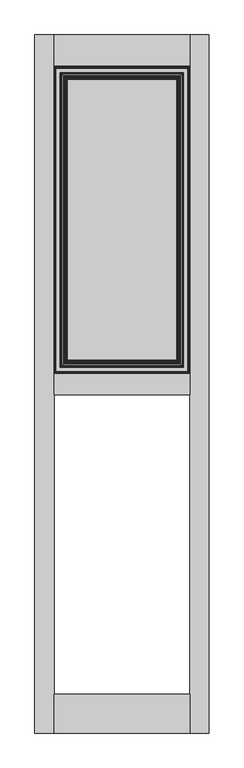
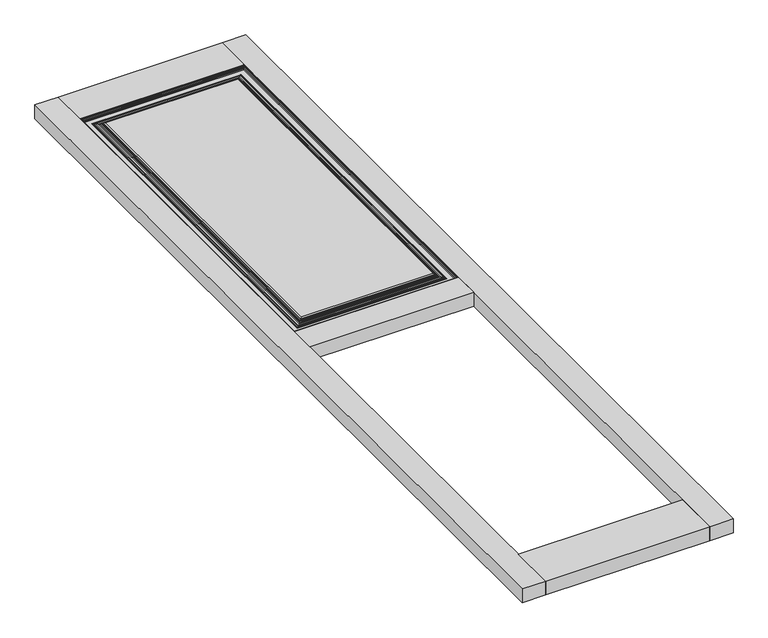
"""IFC4 building model written with IfcOpenShell, lengths in millimetres: proxy geometry, rfa_clas_euro : rfa_clas_euro."""

from ifc_helpers import new_model, si_unit, frame, origin, origin_with_axes, place, context, project, spatial, polyline, ellipse_curve, outline, extrude, source, transform, mapped, element, save
from ifc_brep_helpers import plane_surface, cylinder_surface, revolved_surface, advanced_brep


def generic_models_32b2cebe(model_context):
    return source(origin(), model_context, "Body", "SolidModel", [
        advanced_brep(
        [(142.8109878, 977.9640122, 31.75), (142.8109878, 1711.2609878, 31.75), (-142.8109878, 1711.2609878, 31.75), (-142.8109878, 977.9640122, 31.75), (177.8, 1746.25, 0.0), (177.8, 942.975, 0.0), (-177.8, 942.975, 0.0), (-177.8, 1746.25, 0.0), (-177.8, 1746.25, 31.75), (177.8, 1746.25, 31.75), (-177.8, 942.975, 31.75), (177.8, 942.975, 31.75), (176.7575665, 944.0174335, 30.7985747), (176.7575665, 1745.2075665, 30.7985747), (176.5482746, 1744.9982746, 29.904116), (176.5482746, 944.2267254, 29.904116), (145.3063859, 975.4686141, 30.2273507), (145.3063859, 1713.7563859, 30.2273507), (145.8243029, 974.9506971, 29.1397456), (145.8243029, 1714.2743029, 29.1397456), (147.2536987, 973.5213013, 27.8329042), (147.2536987, 1715.7036987, 27.8329042), (148.2731555, 972.5018445, 27.635423), (148.2731555, 1716.7231555, 27.635423), (149.2714961, 971.5035039, 27.5077118), (149.2714961, 1717.7214961, 27.5077118), (150.560487, 970.214513, 26.8381152), (150.560487, 1719.010487, 26.8381152), (151.3045211, 969.4704789, 26.3695095), (151.3045211, 1719.7545211, 26.3695095), (153.2941856, 967.4808144, 25.9299151), (153.2941856, 1721.7441856, 25.9299151), (156.9684784, 963.8065216, 25.6768193), (156.9684784, 1725.4184784, 25.6768193), (158.5184719, 962.2565281, 25.5163774), (158.5184719, 1726.9684719, 25.5163774), (160.3073754, 960.4676246, 24.5617959), (160.3073754, 1728.7573754, 24.5617959), (161.1169408, 959.6580592, 24.3716442), (161.1169408, 1729.5669408, 24.3716442), (161.8609878, 958.9140122, 24.13), (161.8609878, 1730.3109878, 24.13), (174.7145442, 946.0604558, 24.7979445), (174.7145442, 1743.1645442, 24.7979445), (173.4687859, 1741.9187859, 24.13), (173.4687859, 947.3062141, 24.13), (175.5966631, 945.1783369, 25.7198817), (175.5966631, 1744.0466631, 25.7198817), (176.1049182, 944.6700818, 27.0907273), (176.1049182, 1744.5549182, 27.0907273), (176.4100454, 944.3649546, 28.8502703), (176.4100454, 1744.8600454, 28.8502703), (-176.7575665, 1745.2075665, 30.7985747), (-176.5482746, 1744.9982746, 29.904116), (-145.3063859, 1713.7563859, 30.2273507), (-145.8243029, 1714.2743029, 29.1397456), (-147.2536987, 1715.7036987, 27.8329042), (-148.2731555, 1716.7231555, 27.635423), (-149.2714961, 1717.7214961, 27.5077118), (-150.560487, 1719.010487, 26.8381152), (-151.3045211, 1719.7545211, 26.3695095), (-153.2941856, 1721.7441856, 25.9299151), (-156.9684784, 1725.4184784, 25.6768193), (-158.5184719, 1726.9684719, 25.5163774), (-160.3073754, 1728.7573754, 24.5617959), (-161.1169408, 1729.5669408, 24.3716442), (-161.8609878, 1730.3109878, 24.13), (-174.7145442, 1743.1645442, 24.7979445), (-173.4687859, 1741.9187859, 24.13), (-175.5966631, 1744.0466631, 25.7198817), (-176.1049182, 1744.5549182, 27.0907273), (-176.4100454, 1744.8600454, 28.8502703), (-176.7575665, 944.0174335, 30.7985747), (-176.5482746, 944.2267254, 29.904116), (-145.3063859, 975.4686141, 30.2273507), (-145.8243029, 974.9506971, 29.1397456), (-147.2536987, 973.5213013, 27.8329042), (-148.2731555, 972.5018445, 27.635423), (-149.2714961, 971.5035039, 27.5077118), (-150.560487, 970.214513, 26.8381152), (-151.3045211, 969.4704789, 26.3695095), (-153.2941856, 967.4808144, 25.9299151), (-156.9684784, 963.8065216, 25.6768193), (-158.5184719, 962.2565281, 25.5163774), (-160.3073754, 960.4676246, 24.5617959), (-161.1169408, 959.6580592, 24.3716442), (-161.8609878, 958.9140122, 24.13), (-174.7145442, 946.0604558, 24.7979445), (-173.4687859, 947.3062141, 24.13), (-175.5966631, 945.1783369, 25.7198817), (-176.1049182, 944.6700818, 27.0907273), (-176.4100454, 944.3649546, 28.8502703)],
        [
            (0, 1),
            (1, 2),
            (2, 3),
            (3, 0),
            (4, 5),
            (5, 6),
            (6, 7),
            (7, 4),
            (7, 8),
            (8, 9),
            (9, 4),
            (6, 10),
            (10, 8),
            (5, 11),
            (11, 10),
            (9, 11),
            (12, 13),
            (13, 14, ellipse_curve(frame((180.1411113, 1748.5911113, 29.5351532), z_axis=(0.7071067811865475, -0.7071067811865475, 0.0), x_axis=(0.7071067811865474, 0.7071067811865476, 0.0)), 5.1077606, 3.6117322)),
            (14, 15),
            (15, 12, ellipse_curve(frame((180.1411113, 940.6338887, 29.5351532), z_axis=(0.7071067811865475, 0.7071067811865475, 0.0), x_axis=(-0.7071067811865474, 0.7071067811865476, 0.0)), 5.1077606, 3.6117322)),
            (12, 11, ellipse_curve(frame((178.2069013, 942.5680987, 30.2573906), z_axis=(0.7071067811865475, 0.7071067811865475, 0.0), x_axis=(-0.7071067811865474, 0.7071067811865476, 0.0)), 2.1878993, 1.5470784)),
            (9, 13, ellipse_curve(frame((178.2069013, 1746.6569013, 30.2573906), z_axis=(0.7071067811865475, -0.7071067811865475, 0.0), x_axis=(0.7071067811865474, 0.7071067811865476, 0.0)), 2.1878993, 1.5470784)),
            (16, 17),
            (17, 1, ellipse_curve(frame((142.7085752, 1711.1585752, 28.7760411), z_axis=(0.7071067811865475, -0.7071067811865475, 0.0), x_axis=(0.7071067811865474, 0.7071067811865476, 0.0)), 4.2083061, 2.9757218)),
            (0, 16, ellipse_curve(frame((142.7085752, 978.0664248, 28.7760411), z_axis=(0.7071067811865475, 0.7071067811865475, 0.0), x_axis=(-0.7071067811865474, 0.7071067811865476, 0.0)), 4.2083061, 2.9757218)),
            (16, 18, ellipse_curve(frame((137.2168669, 983.5581331, 25.7080078), z_axis=(0.7071067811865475, 0.7071067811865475, 0.0), x_axis=(-0.7071067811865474, 0.7071067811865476, 0.0)), 13.1045625, 9.266325)),
            (18, 19),
            (19, 17, ellipse_curve(frame((137.2168669, 1705.6668669, 25.7080078), z_axis=(0.7071067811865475, -0.7071067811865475, 0.0), x_axis=(0.7071067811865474, 0.7071067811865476, 0.0)), 13.1045625, 9.266325)),
            (18, 20, ellipse_curve(frame((147.8890045, 972.8859955, 29.9629309), z_axis=(-0.7071067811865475, -0.7071067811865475, 0.0), x_axis=(0.7071067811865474, -0.7071067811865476, 0.0)), 3.1434462, 2.2227521)),
            (20, 21),
            (21, 19, ellipse_curve(frame((147.8890045, 1716.3390045, 29.9629309), z_axis=(-0.7071067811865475, 0.7071067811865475, 0.0), x_axis=(-0.7071067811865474, -0.7071067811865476, 0.0)), 3.1434462, 2.2227521)),
            (20, 22, ellipse_curve(frame((148.7624305, 972.0125695, 32.8913166), z_axis=(-0.7071067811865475, -0.7071067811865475, 0.0), x_axis=(0.7071067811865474, -0.7071067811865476, 0.0)), 7.4650931, 5.2786179)),
            (22, 23),
            (23, 21, ellipse_curve(frame((148.7624305, 1717.2124305, 32.8913166), z_axis=(-0.7071067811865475, 0.7071067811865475, 0.0), x_axis=(-0.7071067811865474, -0.7071067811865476, 0.0)), 7.4650931, 5.2786179)),
            (22, 24, ellipse_curve(frame((146.9172903, 973.8577097, 13.0704362), z_axis=(0.7071067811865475, 0.7071067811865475, 0.0), x_axis=(-0.7071067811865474, 0.7071067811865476, 0.0)), 20.6870594, 14.62796)),
            (24, 25),
            (25, 23, ellipse_curve(frame((146.9172903, 1715.3672903, 13.0704362), z_axis=(0.7071067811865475, -0.7071067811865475, 0.0), x_axis=(0.7071067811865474, 0.7071067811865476, 0.0)), 20.6870594, 14.62796)),
            (24, 26, ellipse_curve(frame((148.8970549, 971.8779451, 25.211434), z_axis=(0.7071067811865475, 0.7071067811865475, 0.0), x_axis=(-0.7071067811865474, 0.7071067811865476, 0.0)), 3.2903185, 2.3266065)),
            (26, 27),
            (27, 25, ellipse_curve(frame((148.8970549, 1717.3470549, 25.211434), z_axis=(0.7071067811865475, -0.7071067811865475, 0.0), x_axis=(0.7071067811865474, 0.7071067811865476, 0.0)), 3.2903185, 2.3266065)),
            (26, 28, ellipse_curve(frame((151.9132305, 968.8617695, 28.1609721), z_axis=(-0.7071067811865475, -0.7071067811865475, 0.0), x_axis=(0.7071067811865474, -0.7071067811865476, 0.0)), 2.6757674, 1.8920533)),
            (28, 29),
            (29, 27, ellipse_curve(frame((151.9132305, 1720.3632305, 28.1609721), z_axis=(-0.7071067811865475, 0.7071067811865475, 0.0), x_axis=(-0.7071067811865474, -0.7071067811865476, 0.0)), 2.6757674, 1.8920533)),
            (28, 30, ellipse_curve(frame((154.2876455, 966.4873545, 35.148995), z_axis=(-0.7071067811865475, -0.7071067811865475, 0.0), x_axis=(0.7071067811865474, -0.7071067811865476, 0.0)), 13.1132298, 9.2724537)),
            (30, 31),
            (31, 29, ellipse_curve(frame((154.2876455, 1722.7376455, 35.148995), z_axis=(-0.7071067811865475, 0.7071067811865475, 0.0), x_axis=(-0.7071067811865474, -0.7071067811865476, 0.0)), 13.1132298, 9.2724537)),
            (30, 32, ellipse_curve(frame((158.4104563, 962.3645437, 73.4077329), z_axis=(-0.7071067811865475, -0.7071067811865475, 0.0), x_axis=(0.7071067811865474, -0.7071067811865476, 0.0)), 67.5325019, 47.7526901)),
            (32, 33),
            (33, 31, ellipse_curve(frame((158.4104563, 1726.8604563, 73.4077329), z_axis=(-0.7071067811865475, 0.7071067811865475, 0.0), x_axis=(-0.7071067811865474, -0.7071067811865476, 0.0)), 67.5325019, 47.7526901)),
            (32, 34, ellipse_curve(frame((156.6456448, 964.1293552, 14.9907051), z_axis=(0.7071067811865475, 0.7071067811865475, 0.0), x_axis=(-0.7071067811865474, 0.7071067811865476, 0.0)), 15.1193425, 10.6909896)),
            (34, 35),
            (35, 33, ellipse_curve(frame((156.6456448, 1725.0956448, 14.9907051), z_axis=(0.7071067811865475, -0.7071067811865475, 0.0), x_axis=(0.7071067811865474, 0.7071067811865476, 0.0)), 15.1193425, 10.6909896)),
            (34, 36),
            (36, 37),
            (37, 35),
            (36, 38, ellipse_curve(frame((158.6123649, 962.1626351, 15.5269094), z_axis=(0.7071067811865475, 0.7071067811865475, 0.0), x_axis=(-0.7071067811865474, 0.7071067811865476, 0.0)), 13.0001719, 9.1925097)),
            (38, 39),
            (39, 37, ellipse_curve(frame((158.6123649, 1727.0623649, 15.5269094), z_axis=(0.7071067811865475, -0.7071067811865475, 0.0), x_axis=(0.7071067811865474, 0.7071067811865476, 0.0)), 13.0001719, 9.1925097)),
            (38, 40, ellipse_curve(frame((158.3173844, 962.4576156, 14.4852063), z_axis=(0.7071067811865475, 0.7071067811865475, 0.0), x_axis=(-0.7071067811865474, 0.7071067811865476, 0.0)), 14.5312883, 10.2751725)),
            (40, 41),
            (41, 39, ellipse_curve(frame((158.3173844, 1726.7673844, 14.4852063), z_axis=(0.7071067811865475, -0.7071067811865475, 0.0), x_axis=(0.7071067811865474, 0.7071067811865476, 0.0)), 14.5312883, 10.2751725)),
            (42, 43),
            (43, 44, ellipse_curve(frame((166.8186003, 1735.2686003, 38.0286932), z_axis=(-0.7071067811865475, 0.7071067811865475, 0.0), x_axis=(-0.7071067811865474, -0.7071067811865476, 0.0)), 21.7898436, 15.4077461)),
            (44, 45),
            (45, 42, ellipse_curve(frame((166.8186003, 953.9563997, 38.0286932), z_axis=(-0.7071067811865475, -0.7071067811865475, 0.0), x_axis=(0.7071067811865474, -0.7071067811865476, 0.0)), 21.7898436, 15.4077461)),
            (42, 46, ellipse_curve(frame((173.4861861, 947.2888139, 26.8562288), z_axis=(-0.7071067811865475, -0.7071067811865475, 0.0), x_axis=(0.7071067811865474, -0.7071067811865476, 0.0)), 3.3898077, 2.396956)),
            (46, 47),
            (47, 43, ellipse_curve(frame((173.4861861, 1741.9361861, 26.8562288), z_axis=(-0.7071067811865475, 0.7071067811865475, 0.0), x_axis=(-0.7071067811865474, -0.7071067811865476, 0.0)), 3.3898077, 2.396956)),
            (46, 48, ellipse_curve(frame((170.9468259, 949.8281741, 28.2235001), z_axis=(-0.7071067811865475, -0.7071067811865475, 0.0), x_axis=(0.7071067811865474, -0.7071067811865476, 0.0)), 7.4684791, 5.2810122)),
            (48, 49),
            (49, 47, ellipse_curve(frame((170.9468259, 1739.3968259, 28.2235001), z_axis=(-0.7071067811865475, 0.7071067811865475, 0.0), x_axis=(-0.7071067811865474, -0.7071067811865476, 0.0)), 7.4684791, 5.2810122)),
            (48, 50, ellipse_curve(frame((156.4887752, 964.2862248, 31.3986442), z_axis=(-0.7071067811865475, -0.7071067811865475, 0.0), x_axis=(0.7071067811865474, -0.7071067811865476, 0.0)), 28.4025075, 20.0836056)),
            (50, 51),
            (51, 49, ellipse_curve(frame((156.4887752, 1724.9387752, 31.3986442), z_axis=(-0.7071067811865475, 0.7071067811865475, 0.0), x_axis=(-0.7071067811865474, -0.7071067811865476, 0.0)), 28.4025075, 20.0836056)),
            (14, 51, ellipse_curve(frame((157.7234708, 1726.1734708, 31.8373107), z_axis=(-0.7071067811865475, 0.7071067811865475, 0.0), x_axis=(-0.7071067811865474, -0.7071067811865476, 0.0)), 26.7623049, 18.9238073)),
            (50, 15, ellipse_curve(frame((157.7234708, 963.0515292, 31.8373107), z_axis=(-0.7071067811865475, -0.7071067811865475, 0.0), x_axis=(0.7071067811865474, -0.7071067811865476, 0.0)), 26.7623049, 18.9238073)),
            (13, 52),
            (52, 53, ellipse_curve(frame((-180.1411113, 1748.5911113, 29.5351532), z_axis=(0.7071067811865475, 0.7071067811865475, 0.0), x_axis=(-0.7071067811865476, 0.7071067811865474, 0.0)), 5.1077606, 3.6117322)),
            (53, 14),
            (8, 52, ellipse_curve(frame((-178.2069013, 1746.6569013, 30.2573906), z_axis=(0.7071067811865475, 0.7071067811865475, 0.0), x_axis=(-0.7071067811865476, 0.7071067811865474, 0.0)), 2.1878993, 1.5470784)),
            (17, 54),
            (54, 2, ellipse_curve(frame((-142.7085752, 1711.1585752, 28.7760411), z_axis=(0.7071067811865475, 0.7071067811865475, 0.0), x_axis=(-0.7071067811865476, 0.7071067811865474, 0.0)), 4.2083061, 2.9757218)),
            (19, 55),
            (55, 54, ellipse_curve(frame((-137.2168669, 1705.6668669, 25.7080078), z_axis=(0.7071067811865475, 0.7071067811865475, 0.0), x_axis=(-0.7071067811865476, 0.7071067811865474, 0.0)), 13.1045625, 9.266325)),
            (21, 56),
            (56, 55, ellipse_curve(frame((-147.8890045, 1716.3390045, 29.9629309), z_axis=(-0.7071067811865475, -0.7071067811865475, 0.0), x_axis=(0.7071067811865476, -0.7071067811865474, 0.0)), 3.1434462, 2.2227521)),
            (23, 57),
            (57, 56, ellipse_curve(frame((-148.7624305, 1717.2124305, 32.8913166), z_axis=(-0.7071067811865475, -0.7071067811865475, 0.0), x_axis=(0.7071067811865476, -0.7071067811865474, 0.0)), 7.4650931, 5.2786179)),
            (25, 58),
            (58, 57, ellipse_curve(frame((-146.9172903, 1715.3672903, 13.0704362), z_axis=(0.7071067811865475, 0.7071067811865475, 0.0), x_axis=(-0.7071067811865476, 0.7071067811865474, 0.0)), 20.6870594, 14.62796)),
            (27, 59),
            (59, 58, ellipse_curve(frame((-148.8970549, 1717.3470549, 25.211434), z_axis=(0.7071067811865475, 0.7071067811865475, 0.0), x_axis=(-0.7071067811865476, 0.7071067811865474, 0.0)), 3.2903185, 2.3266065)),
            (29, 60),
            (60, 59, ellipse_curve(frame((-151.9132305, 1720.3632305, 28.1609721), z_axis=(-0.7071067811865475, -0.7071067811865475, 0.0), x_axis=(0.7071067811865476, -0.7071067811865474, 0.0)), 2.6757674, 1.8920533)),
            (31, 61),
            (61, 60, ellipse_curve(frame((-154.2876455, 1722.7376455, 35.148995), z_axis=(-0.7071067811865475, -0.7071067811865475, 0.0), x_axis=(0.7071067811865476, -0.7071067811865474, 0.0)), 13.1132298, 9.2724537)),
            (33, 62),
            (62, 61, ellipse_curve(frame((-158.4104563, 1726.8604563, 73.4077329), z_axis=(-0.7071067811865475, -0.7071067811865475, 0.0), x_axis=(0.7071067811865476, -0.7071067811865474, 0.0)), 67.5325019, 47.7526901)),
            (35, 63),
            (63, 62, ellipse_curve(frame((-156.6456448, 1725.0956448, 14.9907051), z_axis=(0.7071067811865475, 0.7071067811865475, 0.0), x_axis=(-0.7071067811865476, 0.7071067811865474, 0.0)), 15.1193425, 10.6909896)),
            (37, 64),
            (64, 63),
            (39, 65),
            (65, 64, ellipse_curve(frame((-158.6123649, 1727.0623649, 15.5269094), z_axis=(0.7071067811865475, 0.7071067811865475, 0.0), x_axis=(-0.7071067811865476, 0.7071067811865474, 0.0)), 13.0001719, 9.1925097)),
            (41, 66),
            (66, 65, ellipse_curve(frame((-158.3173844, 1726.7673844, 14.4852063), z_axis=(0.7071067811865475, 0.7071067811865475, 0.0), x_axis=(-0.7071067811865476, 0.7071067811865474, 0.0)), 14.5312883, 10.2751725)),
            (43, 67),
            (67, 68, ellipse_curve(frame((-166.8186003, 1735.2686003, 38.0286932), z_axis=(-0.7071067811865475, -0.7071067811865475, 0.0), x_axis=(0.7071067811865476, -0.7071067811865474, 0.0)), 21.7898436, 15.4077461)),
            (68, 44),
            (47, 69),
            (69, 67, ellipse_curve(frame((-173.4861861, 1741.9361861, 26.8562288), z_axis=(-0.7071067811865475, -0.7071067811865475, 0.0), x_axis=(0.7071067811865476, -0.7071067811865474, 0.0)), 3.3898077, 2.396956)),
            (49, 70),
            (70, 69, ellipse_curve(frame((-170.9468259, 1739.3968259, 28.2235001), z_axis=(-0.7071067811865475, -0.7071067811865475, 0.0), x_axis=(0.7071067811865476, -0.7071067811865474, 0.0)), 7.4684791, 5.2810122)),
            (51, 71),
            (71, 70, ellipse_curve(frame((-156.4887752, 1724.9387752, 31.3986442), z_axis=(-0.7071067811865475, -0.7071067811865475, 0.0), x_axis=(0.7071067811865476, -0.7071067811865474, 0.0)), 28.4025075, 20.0836056)),
            (53, 71, ellipse_curve(frame((-157.7234708, 1726.1734708, 31.8373107), z_axis=(-0.7071067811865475, -0.7071067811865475, 0.0), x_axis=(0.7071067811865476, -0.7071067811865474, 0.0)), 26.7623049, 18.9238073)),
            (52, 72),
            (72, 73, ellipse_curve(frame((-180.1411113, 940.6338887, 29.5351532), z_axis=(-0.7071067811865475, 0.7071067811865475, 0.0), x_axis=(-0.7071067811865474, -0.7071067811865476, 0.0)), 5.1077606, 3.6117322)),
            (73, 53),
            (10, 72, ellipse_curve(frame((-178.2069013, 942.5680987, 30.2573906), z_axis=(-0.7071067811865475, 0.7071067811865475, 0.0), x_axis=(-0.7071067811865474, -0.7071067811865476, 0.0)), 2.1878993, 1.5470784)),
            (54, 74),
            (74, 3, ellipse_curve(frame((-142.7085752, 978.0664248, 28.7760411), z_axis=(-0.7071067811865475, 0.7071067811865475, 0.0), x_axis=(-0.7071067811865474, -0.7071067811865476, 0.0)), 4.2083061, 2.9757218)),
            (55, 75),
            (75, 74, ellipse_curve(frame((-137.2168669, 983.5581331, 25.7080078), z_axis=(-0.7071067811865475, 0.7071067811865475, 0.0), x_axis=(-0.7071067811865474, -0.7071067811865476, 0.0)), 13.1045625, 9.266325)),
            (56, 76),
            (76, 75, ellipse_curve(frame((-147.8890045, 972.8859955, 29.9629309), z_axis=(0.7071067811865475, -0.7071067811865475, 0.0), x_axis=(0.7071067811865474, 0.7071067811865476, 0.0)), 3.1434462, 2.2227521)),
            (57, 77),
            (77, 76, ellipse_curve(frame((-148.7624305, 972.0125695, 32.8913166), z_axis=(0.7071067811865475, -0.7071067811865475, 0.0), x_axis=(0.7071067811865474, 0.7071067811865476, 0.0)), 7.4650931, 5.2786179)),
            (58, 78),
            (78, 77, ellipse_curve(frame((-146.9172903, 973.8577097, 13.0704362), z_axis=(-0.7071067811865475, 0.7071067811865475, 0.0), x_axis=(-0.7071067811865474, -0.7071067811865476, 0.0)), 20.6870594, 14.62796)),
            (59, 79),
            (79, 78, ellipse_curve(frame((-148.8970549, 971.8779451, 25.211434), z_axis=(-0.7071067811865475, 0.7071067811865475, 0.0), x_axis=(-0.7071067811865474, -0.7071067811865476, 0.0)), 3.2903185, 2.3266065)),
            (60, 80),
            (80, 79, ellipse_curve(frame((-151.9132305, 968.8617695, 28.1609721), z_axis=(0.7071067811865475, -0.7071067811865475, 0.0), x_axis=(0.7071067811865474, 0.7071067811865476, 0.0)), 2.6757674, 1.8920533)),
            (61, 81),
            (81, 80, ellipse_curve(frame((-154.2876455, 966.4873545, 35.148995), z_axis=(0.7071067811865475, -0.7071067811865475, 0.0), x_axis=(0.7071067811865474, 0.7071067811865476, 0.0)), 13.1132298, 9.2724537)),
            (62, 82),
            (82, 81, ellipse_curve(frame((-158.4104563, 962.3645437, 73.4077329), z_axis=(0.7071067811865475, -0.7071067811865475, 0.0), x_axis=(0.7071067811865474, 0.7071067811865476, 0.0)), 67.5325019, 47.7526901)),
            (63, 83),
            (83, 82, ellipse_curve(frame((-156.6456448, 964.1293552, 14.9907051), z_axis=(-0.7071067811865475, 0.7071067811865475, 0.0), x_axis=(-0.7071067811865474, -0.7071067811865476, 0.0)), 15.1193425, 10.6909896)),
            (64, 84),
            (84, 83),
            (65, 85),
            (85, 84, ellipse_curve(frame((-158.6123649, 962.1626351, 15.5269094), z_axis=(-0.7071067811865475, 0.7071067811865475, 0.0), x_axis=(-0.7071067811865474, -0.7071067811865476, 0.0)), 13.0001719, 9.1925097)),
            (66, 86),
            (86, 85, ellipse_curve(frame((-158.3173844, 962.4576156, 14.4852063), z_axis=(-0.7071067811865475, 0.7071067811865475, 0.0), x_axis=(-0.7071067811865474, -0.7071067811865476, 0.0)), 14.5312883, 10.2751725)),
            (67, 87),
            (87, 88, ellipse_curve(frame((-166.8186003, 953.9563997, 38.0286932), z_axis=(0.7071067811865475, -0.7071067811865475, 0.0), x_axis=(0.7071067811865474, 0.7071067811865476, 0.0)), 21.7898436, 15.4077461)),
            (88, 68),
            (69, 89),
            (89, 87, ellipse_curve(frame((-173.4861861, 947.2888139, 26.8562288), z_axis=(0.7071067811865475, -0.7071067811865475, 0.0), x_axis=(0.7071067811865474, 0.7071067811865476, 0.0)), 3.3898077, 2.396956)),
            (70, 90),
            (90, 89, ellipse_curve(frame((-170.9468259, 949.8281741, 28.2235001), z_axis=(0.7071067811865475, -0.7071067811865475, 0.0), x_axis=(0.7071067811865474, 0.7071067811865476, 0.0)), 7.4684791, 5.2810122)),
            (71, 91),
            (91, 90, ellipse_curve(frame((-156.4887752, 964.2862248, 31.3986442), z_axis=(0.7071067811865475, -0.7071067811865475, 0.0), x_axis=(0.7071067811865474, 0.7071067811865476, 0.0)), 28.4025075, 20.0836056)),
            (73, 91, ellipse_curve(frame((-157.7234708, 963.0515292, 31.8373107), z_axis=(0.7071067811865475, -0.7071067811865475, 0.0), x_axis=(0.7071067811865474, 0.7071067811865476, 0.0)), 26.7623049, 18.9238073)),
            (15, 73),
            (72, 12),
            (74, 16),
            (75, 18),
            (76, 20),
            (77, 22),
            (78, 24),
            (79, 26),
            (80, 28),
            (81, 30),
            (82, 32),
            (83, 34),
            (84, 36),
            (85, 38),
            (86, 40),
            (88, 45),
            (87, 42),
            (89, 46),
            (90, 48),
            (91, 50),
        ],
        [
            plane_surface(frame((-177.8, 1746.25, 31.75), z_axis=(0.0, 0.0, 1.0), x_axis=(-1.0, 0.0, 0.0))),
            plane_surface(frame((-177.8, 1746.25, 0.0), z_axis=(0.0, 0.0, -1.0), x_axis=(1.0, 0.0, 0.0))),
            plane_surface(frame((177.8, 1746.25, 31.75), z_axis=(0.0, 1.0, 0.0), x_axis=(0.0, 0.0, -1.0))),
            plane_surface(frame((-177.8, 1746.25, 31.75), z_axis=(-1.0, 0.0, 0.0), x_axis=(0.0, 0.0, -1.0))),
            plane_surface(frame((-177.8, 942.975, 31.75), z_axis=(0.0, -1.0, 0.0), x_axis=(0.0, 0.0, -1.0))),
            plane_surface(frame((177.8, 942.975, 31.75), z_axis=(1.0, 0.0, 0.0), x_axis=(0.0, 0.0, -1.0))),
            cylinder_surface(frame((180.1411113, 942.975, 29.5351532), z_axis=(0.0, 1.0, 0.0), x_axis=(-1.0, 0.0, 0.0)), 3.6117322),
            cylinder_surface(frame((178.2069013, 942.975, 30.2573906), z_axis=(0.0, 1.0, 0.0), x_axis=(-1.0, 0.0, 0.0)), 1.5470784),
            cylinder_surface(frame((142.7085752, 942.975, 28.7760411), z_axis=(0.0, 1.0, 0.0), x_axis=(-1.0, 0.0, 0.0)), 2.9757218),
            cylinder_surface(frame((137.2168669, 942.975, 25.7080078), z_axis=(0.0, 1.0, 0.0), x_axis=(-1.0, 0.0, 0.0)), 9.266325),
            revolved_surface(polyline([(145.6662524, 970.6632433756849, 29.9629309), (145.6662524, 1718.5617566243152, 29.9629309)]), (147.8890045, 942.975, 29.9629309), (0.0, -1.0, 0.0)),
            revolved_surface(polyline([(143.4838126, 966.7339515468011, 32.8913166), (143.4838126, 1722.4910484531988, 32.8913166)]), (148.7624305, 942.975, 32.8913166), (0.0, -1.0, 0.0)),
            cylinder_surface(frame((146.9172903, 942.975, 13.0704362), z_axis=(0.0, 1.0, 0.0), x_axis=(-1.0, 0.0, 0.0)), 14.62796),
            cylinder_surface(frame((148.8970549, 942.975, 25.211434), z_axis=(0.0, 1.0, 0.0), x_axis=(-1.0, 0.0, 0.0)), 2.3266065),
            revolved_surface(polyline([(150.0211772, 966.9697162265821, 28.1609721), (150.0211772, 1722.255283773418, 28.1609721)]), (151.9132305, 942.975, 28.1609721), (0.0, -1.0, 0.0)),
            revolved_surface(polyline([(145.0151918, 957.2149007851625, 35.148995), (145.0151918, 1732.0100992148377, 35.148995)]), (154.2876455, 942.975, 35.148995), (0.0, -1.0, 0.0)),
            revolved_surface(polyline([(110.6577662, 914.6118536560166, 73.4077329), (110.6577662, 1774.6131463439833, 73.4077329)]), (158.4104563, 942.975, 73.4077329), (0.0, -1.0, 0.0)),
            cylinder_surface(frame((156.6456448, 942.975, 14.9907051), z_axis=(0.0, 1.0, 0.0), x_axis=(-1.0, 0.0, 0.0)), 10.6909896),
            plane_surface(frame((158.5184719, 962.2565281, 25.5163774), z_axis=(0.4707800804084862, 0.0, 0.8822505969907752), x_axis=(0.0, 1.0, 0.0))),
            cylinder_surface(frame((158.6123649, 942.975, 15.5269094), z_axis=(0.0, 1.0, 0.0), x_axis=(-1.0, 0.0, 0.0)), 9.1925097),
            cylinder_surface(frame((158.3173844, 942.975, 14.4852063), z_axis=(0.0, 1.0, 0.0), x_axis=(-1.0, 0.0, 0.0)), 10.2751725),
            revolved_surface(polyline([(151.41085420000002, 938.5486535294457, 38.0286932), (151.41085420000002, 1750.676346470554, 38.0286932)]), (166.8186003, 942.975, 38.0286932), (0.0, -1.0, 0.0)),
            revolved_surface(polyline([(171.0892301, 944.8918578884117, 26.8562288), (171.0892301, 1744.3331421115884, 26.8562288)]), (173.4861861, 942.975, 26.8562288), (0.0, -1.0, 0.0)),
            revolved_surface(polyline([(165.6658137, 944.5471618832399, 28.2235001), (165.6658137, 1744.67783811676, 28.2235001)]), (170.9468259, 942.975, 28.2235001), (0.0, -1.0, 0.0)),
            revolved_surface(polyline([(136.4051696, 944.2026191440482, 31.3986442), (136.4051696, 1745.0223808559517, 31.3986442)]), (156.4887752, 942.975, 31.3986442), (0.0, -1.0, 0.0)),
            revolved_surface(polyline([(138.7996635, 944.127721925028, 31.8373107), (138.7996635, 1745.0972780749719, 31.8373107)]), (157.7234708, 942.975, 31.8373107), (0.0, -1.0, 0.0)),
            cylinder_surface(frame((177.8, 1748.5911113, 29.5351532), z_axis=(-1.0, 0.0, 0.0), x_axis=(0.0, -1.0, 0.0)), 3.6117322),
            cylinder_surface(frame((177.8, 1746.6569013, 30.2573906), z_axis=(-1.0, 0.0, 0.0), x_axis=(0.0, -1.0, 0.0)), 1.5470784),
            cylinder_surface(frame((177.8, 1711.1585752, 28.7760411), z_axis=(-1.0, 0.0, 0.0), x_axis=(0.0, -1.0, 0.0)), 2.9757218),
            cylinder_surface(frame((177.8, 1705.6668669, 25.7080078), z_axis=(-1.0, 0.0, 0.0), x_axis=(0.0, -1.0, 0.0)), 9.266325),
            revolved_surface(polyline([(150.1117566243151, 1714.1162524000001, 29.9629309), (-150.1117566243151, 1714.1162524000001, 29.9629309)]), (177.8, 1716.3390045, 29.9629309), (1.0, 0.0, 0.0)),
            revolved_surface(polyline([(154.0410484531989, 1711.9338126, 32.8913166), (-154.04104845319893, 1711.9338126, 32.8913166)]), (177.8, 1717.2124305, 32.8913166), (1.0, 0.0, 0.0)),
            cylinder_surface(frame((177.8, 1715.3672903, 13.0704362), z_axis=(-1.0, 0.0, 0.0), x_axis=(0.0, -1.0, 0.0)), 14.62796),
            cylinder_surface(frame((177.8, 1717.3470549, 25.211434), z_axis=(-1.0, 0.0, 0.0), x_axis=(0.0, -1.0, 0.0)), 2.3266065),
            revolved_surface(polyline([(153.8052837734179, 1718.4711772, 28.1609721), (-153.8052837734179, 1718.4711772, 28.1609721)]), (177.8, 1720.3632305, 28.1609721), (1.0, 0.0, 0.0)),
            revolved_surface(polyline([(163.56009921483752, 1713.4651918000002, 35.148995), (-163.56009921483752, 1713.4651918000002, 35.148995)]), (177.8, 1722.7376455, 35.148995), (1.0, 0.0, 0.0)),
            revolved_surface(polyline([(206.16314634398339, 1679.1077661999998, 73.4077329), (-206.16314634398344, 1679.1077661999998, 73.4077329)]), (177.8, 1726.8604563, 73.4077329), (1.0, 0.0, 0.0)),
            cylinder_surface(frame((177.8, 1725.0956448, 14.9907051), z_axis=(-1.0, 0.0, 0.0), x_axis=(0.0, -1.0, 0.0)), 10.6909896),
            plane_surface(frame((158.5184719, 1726.9684719, 25.5163774), z_axis=(0.0, 0.4707800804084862, 0.8822505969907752), x_axis=(-1.0, 0.0, 0.0))),
            cylinder_surface(frame((177.8, 1727.0623649, 15.5269094), z_axis=(-1.0, 0.0, 0.0), x_axis=(0.0, -1.0, 0.0)), 9.1925097),
            cylinder_surface(frame((177.8, 1726.7673844, 14.4852063), z_axis=(-1.0, 0.0, 0.0), x_axis=(0.0, -1.0, 0.0)), 10.2751725),
            revolved_surface(polyline([(182.2263464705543, 1719.8608542, 38.0286932), (-182.2263464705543, 1719.8608542, 38.0286932)]), (177.8, 1735.2686003, 38.0286932), (1.0, 0.0, 0.0)),
            revolved_surface(polyline([(175.88314211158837, 1739.5392301, 26.8562288), (-175.88314211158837, 1739.5392301, 26.8562288)]), (177.8, 1741.9361861, 26.8562288), (1.0, 0.0, 0.0)),
            revolved_surface(polyline([(176.22783811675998, 1734.1158137, 28.2235001), (-176.22783811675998, 1734.1158137, 28.2235001)]), (177.8, 1739.3968259, 28.2235001), (1.0, 0.0, 0.0)),
            revolved_surface(polyline([(176.57238085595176, 1704.8551696, 31.3986442), (-176.5723808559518, 1704.8551696, 31.3986442)]), (177.8, 1724.9387752, 31.3986442), (1.0, 0.0, 0.0)),
            revolved_surface(polyline([(176.64727807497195, 1707.2496635, 31.8373107), (-176.647278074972, 1707.2496635, 31.8373107)]), (177.8, 1726.1734708, 31.8373107), (1.0, 0.0, 0.0)),
            cylinder_surface(frame((-180.1411113, 1746.25, 29.5351532), z_axis=(0.0, -1.0, 0.0), x_axis=(1.0, 0.0, 0.0)), 3.6117322),
            cylinder_surface(frame((-178.2069013, 1746.25, 30.2573906), z_axis=(0.0, -1.0, 0.0), x_axis=(1.0, 0.0, 0.0)), 1.5470784),
            cylinder_surface(frame((-142.7085752, 1746.25, 28.7760411), z_axis=(0.0, -1.0, 0.0), x_axis=(1.0, 0.0, 0.0)), 2.9757218),
            cylinder_surface(frame((-137.2168669, 1746.25, 25.7080078), z_axis=(0.0, -1.0, 0.0), x_axis=(1.0, 0.0, 0.0)), 9.266325),
            revolved_surface(polyline([(-145.6662524, 1718.5617566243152, 29.9629309), (-145.6662524, 970.6632433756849, 29.9629309)]), (-147.8890045, 1746.25, 29.9629309), (0.0, 1.0, 0.0)),
            revolved_surface(polyline([(-143.4838126, 1722.4910484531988, 32.8913166), (-143.4838126, 966.7339515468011, 32.8913166)]), (-148.7624305, 1746.25, 32.8913166), (0.0, 1.0, 0.0)),
            cylinder_surface(frame((-146.9172903, 1746.25, 13.0704362), z_axis=(0.0, -1.0, 0.0), x_axis=(1.0, 0.0, 0.0)), 14.62796),
            cylinder_surface(frame((-148.8970549, 1746.25, 25.211434), z_axis=(0.0, -1.0, 0.0), x_axis=(1.0, 0.0, 0.0)), 2.3266065),
            revolved_surface(polyline([(-150.0211772, 1722.255283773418, 28.1609721), (-150.0211772, 966.9697162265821, 28.1609721)]), (-151.9132305, 1746.25, 28.1609721), (0.0, 1.0, 0.0)),
            revolved_surface(polyline([(-145.0151918, 1732.0100992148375, 35.148995), (-145.0151918, 957.2149007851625, 35.148995)]), (-154.2876455, 1746.25, 35.148995), (0.0, 1.0, 0.0)),
            revolved_surface(polyline([(-110.6577662, 1774.6131463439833, 73.4077329), (-110.6577662, 914.6118536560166, 73.4077329)]), (-158.4104563, 1746.25, 73.4077329), (0.0, 1.0, 0.0)),
            cylinder_surface(frame((-156.6456448, 1746.25, 14.9907051), z_axis=(0.0, -1.0, 0.0), x_axis=(1.0, 0.0, 0.0)), 10.6909896),
            plane_surface(frame((-158.5184719, 1726.9684719, 25.5163774), z_axis=(-0.4707800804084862, 0.0, 0.8822505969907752), x_axis=(0.0, -1.0, 0.0))),
            cylinder_surface(frame((-158.6123649, 1746.25, 15.5269094), z_axis=(0.0, -1.0, 0.0), x_axis=(1.0, 0.0, 0.0)), 9.1925097),
            cylinder_surface(frame((-158.3173844, 1746.25, 14.4852063), z_axis=(0.0, -1.0, 0.0), x_axis=(1.0, 0.0, 0.0)), 10.2751725),
            revolved_surface(polyline([(-151.41085420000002, 1750.676346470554, 38.0286932), (-151.41085420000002, 938.5486535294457, 38.0286932)]), (-166.8186003, 1746.25, 38.0286932), (0.0, 1.0, 0.0)),
            revolved_surface(polyline([(-171.0892301, 1744.3331421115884, 26.8562288), (-171.0892301, 944.8918578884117, 26.8562288)]), (-173.4861861, 1746.25, 26.8562288), (0.0, 1.0, 0.0)),
            revolved_surface(polyline([(-165.6658137, 1744.67783811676, 28.2235001), (-165.6658137, 944.5471618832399, 28.2235001)]), (-170.9468259, 1746.25, 28.2235001), (0.0, 1.0, 0.0)),
            revolved_surface(polyline([(-136.4051696, 1745.0223808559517, 31.3986442), (-136.4051696, 944.2026191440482, 31.3986442)]), (-156.4887752, 1746.25, 31.3986442), (0.0, 1.0, 0.0)),
            revolved_surface(polyline([(-138.7996635, 1745.0972780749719, 31.8373107), (-138.7996635, 944.127721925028, 31.8373107)]), (-157.7234708, 1746.25, 31.8373107), (0.0, 1.0, 0.0)),
            cylinder_surface(frame((-177.8, 940.6338887, 29.5351532), z_axis=(1.0, 0.0, 0.0), x_axis=(0.0, 1.0, 0.0)), 3.6117322),
            cylinder_surface(frame((-177.8, 942.5680987, 30.2573906), z_axis=(1.0, 0.0, 0.0), x_axis=(0.0, 1.0, 0.0)), 1.5470784),
            cylinder_surface(frame((-177.8, 978.0664248, 28.7760411), z_axis=(1.0, 0.0, 0.0), x_axis=(0.0, 1.0, 0.0)), 2.9757218),
            cylinder_surface(frame((-177.8, 983.5581331, 25.7080078), z_axis=(1.0, 0.0, 0.0), x_axis=(0.0, 1.0, 0.0)), 9.266325),
            revolved_surface(polyline([(-150.1117566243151, 975.1087476, 29.9629309), (150.1117566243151, 975.1087476, 29.9629309)]), (-177.8, 972.8859955, 29.9629309), (-1.0, 0.0, 0.0)),
            revolved_surface(polyline([(-154.0410484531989, 977.2911874, 32.8913166), (154.04104845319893, 977.2911874, 32.8913166)]), (-177.8, 972.0125695, 32.8913166), (-1.0, 0.0, 0.0)),
            cylinder_surface(frame((-177.8, 973.8577097, 13.0704362), z_axis=(1.0, 0.0, 0.0), x_axis=(0.0, 1.0, 0.0)), 14.62796),
            cylinder_surface(frame((-177.8, 971.8779451, 25.211434), z_axis=(1.0, 0.0, 0.0), x_axis=(0.0, 1.0, 0.0)), 2.3266065),
            revolved_surface(polyline([(-153.8052837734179, 970.7538228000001, 28.1609721), (153.8052837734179, 970.7538228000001, 28.1609721)]), (-177.8, 968.8617695, 28.1609721), (-1.0, 0.0, 0.0)),
            revolved_surface(polyline([(-163.56009921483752, 975.7598082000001, 35.148995), (163.56009921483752, 975.7598082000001, 35.148995)]), (-177.8, 966.4873545, 35.148995), (-1.0, 0.0, 0.0)),
            revolved_surface(polyline([(-206.16314634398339, 1010.1172338, 73.4077329), (206.16314634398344, 1010.1172338, 73.4077329)]), (-177.8, 962.3645437, 73.4077329), (-1.0, 0.0, 0.0)),
            cylinder_surface(frame((-177.8, 964.1293552, 14.9907051), z_axis=(1.0, 0.0, 0.0), x_axis=(0.0, 1.0, 0.0)), 10.6909896),
            plane_surface(frame((-158.5184719, 962.2565281, 25.5163774), z_axis=(0.0, -0.4707800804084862, 0.8822505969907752), x_axis=(1.0, 0.0, 0.0))),
            cylinder_surface(frame((-177.8, 962.1626351, 15.5269094), z_axis=(1.0, 0.0, 0.0), x_axis=(0.0, 1.0, 0.0)), 9.1925097),
            cylinder_surface(frame((-177.8, 962.4576156, 14.4852063), z_axis=(1.0, 0.0, 0.0), x_axis=(0.0, 1.0, 0.0)), 10.2751725),
            plane_surface(frame((-161.8609878, 958.9140122, 24.13), z_axis=(0.0, 0.0, 1.0), x_axis=(1.0, 0.0, 0.0))),
            revolved_surface(polyline([(-182.2263464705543, 969.3641458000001, 38.0286932), (182.2263464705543, 969.3641458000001, 38.0286932)]), (-177.8, 953.9563997, 38.0286932), (-1.0, 0.0, 0.0)),
            revolved_surface(polyline([(-175.88314211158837, 949.6857699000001, 26.8562288), (175.88314211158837, 949.6857699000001, 26.8562288)]), (-177.8, 947.2888139, 26.8562288), (-1.0, 0.0, 0.0)),
            revolved_surface(polyline([(-176.22783811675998, 955.1091862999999, 28.2235001), (176.22783811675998, 955.1091862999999, 28.2235001)]), (-177.8, 949.8281741, 28.2235001), (-1.0, 0.0, 0.0)),
            revolved_surface(polyline([(-176.57238085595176, 984.3698304, 31.3986442), (176.5723808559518, 984.3698304, 31.3986442)]), (-177.8, 964.2862248, 31.3986442), (-1.0, 0.0, 0.0)),
            revolved_surface(polyline([(-176.64727807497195, 981.9753365, 31.8373107), (176.647278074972, 981.9753365, 31.8373107)]), (-177.8, 963.0515292, 31.8373107), (-1.0, 0.0, 0.0)),
        ],
        [
            (0, [[1, 2, 3, 4]]),
            (1, [[5, 6, 7, 8]]),
            (2, [[-8, 9, 10, 11]]),
            (3, [[-7, 12, 13, -9]]),
            (4, [[-6, 14, 15, -12]]),
            (5, [[-5, -11, 16, -14]]),
            (6, [[17, 18, 19, 20]]),
            (7, [[-17, 21, -16, 22]]),
            (8, [[23, 24, -1, 25]]),
            (9, [[-23, 26, 27, 28]]),
            (10, [[-27, 29, 30, 31]]),
            (11, [[-30, 32, 33, 34]]),
            (12, [[-33, 35, 36, 37]]),
            (13, [[-36, 38, 39, 40]]),
            (14, [[-39, 41, 42, 43]]),
            (15, [[-42, 44, 45, 46]]),
            (16, [[-45, 47, 48, 49]]),
            (17, [[-48, 50, 51, 52]]),
            (18, [[-51, 53, 54, 55]]),
            (19, [[-54, 56, 57, 58]]),
            (20, [[-57, 59, 60, 61]]),
            (21, [[62, 63, 64, 65]]),
            (22, [[-62, 66, 67, 68]]),
            (23, [[-67, 69, 70, 71]]),
            (24, [[-70, 72, 73, 74]]),
            (25, [[-19, 75, -73, 76]]),
            (26, [[-18, 77, 78, 79]]),
            (27, [[-22, -10, 80, -77]]),
            (28, [[-24, 81, 82, -2]]),
            (29, [[-28, 83, 84, -81]]),
            (30, [[-31, 85, 86, -83]]),
            (31, [[-34, 87, 88, -85]]),
            (32, [[-37, 89, 90, -87]]),
            (33, [[-40, 91, 92, -89]]),
            (34, [[-43, 93, 94, -91]]),
            (35, [[-46, 95, 96, -93]]),
            (36, [[-49, 97, 98, -95]]),
            (37, [[-52, 99, 100, -97]]),
            (38, [[-55, 101, 102, -99]]),
            (39, [[-58, 103, 104, -101]]),
            (40, [[-61, 105, 106, -103]]),
            (41, [[-63, 107, 108, 109]]),
            (42, [[-68, 110, 111, -107]]),
            (43, [[-71, 112, 113, -110]]),
            (44, [[-74, 114, 115, -112]]),
            (45, [[-75, -79, 116, -114]]),
            (46, [[-78, 117, 118, 119]]),
            (47, [[-80, -13, 120, -117]]),
            (48, [[-82, 121, 122, -3]]),
            (49, [[-84, 123, 124, -121]]),
            (50, [[-86, 125, 126, -123]]),
            (51, [[-88, 127, 128, -125]]),
            (52, [[-90, 129, 130, -127]]),
            (53, [[-92, 131, 132, -129]]),
            (54, [[-94, 133, 134, -131]]),
            (55, [[-96, 135, 136, -133]]),
            (56, [[-98, 137, 138, -135]]),
            (57, [[-100, 139, 140, -137]]),
            (58, [[-102, 141, 142, -139]]),
            (59, [[-104, 143, 144, -141]]),
            (60, [[-106, 145, 146, -143]]),
            (61, [[-108, 147, 148, 149]]),
            (62, [[-111, 150, 151, -147]]),
            (63, [[-113, 152, 153, -150]]),
            (64, [[-115, 154, 155, -152]]),
            (65, [[-116, -119, 156, -154]]),
            (66, [[-20, 157, -118, 158]]),
            (67, [[-21, -158, -120, -15]]),
            (68, [[-25, -4, -122, 159]]),
            (69, [[-26, -159, -124, 160]]),
            (70, [[-29, -160, -126, 161]]),
            (71, [[-32, -161, -128, 162]]),
            (72, [[-35, -162, -130, 163]]),
            (73, [[-38, -163, -132, 164]]),
            (74, [[-41, -164, -134, 165]]),
            (75, [[-44, -165, -136, 166]]),
            (76, [[-47, -166, -138, 167]]),
            (77, [[-50, -167, -140, 168]]),
            (78, [[-53, -168, -142, 169]]),
            (79, [[-56, -169, -144, 170]]),
            (80, [[-59, -170, -146, 171]]),
            (81, [[-64, -109, -149, 172], [-60, -171, -145, -105]]),
            (82, [[-65, -172, -148, 173]]),
            (83, [[-66, -173, -151, 174]]),
            (84, [[-69, -174, -153, 175]]),
            (85, [[-72, -175, -155, 176]]),
            (86, [[-76, -176, -156, -157]]),
        ],
    ),
        extrude(outline(polyline([(177.8, 1828.8), (177.8, 1746.25), (-177.8, 1746.25), (-177.8, 1828.8), (177.8, 1828.8)])), origin_with_axes(), (0.0, 0.0, 1.0), 31.75),
        extrude(outline(polyline([(177.8, 942.975), (177.8, 885.825), (-177.8, 885.825), (-177.8, 942.975), (177.8, 942.975)])), origin_with_axes(), (0.0, 0.0, 1.0), 31.75),
        extrude(outline(polyline([(177.8, 101.6), (177.8, 0.0), (-177.8, 0.0), (-177.8, 101.6), (177.8, 101.6)])), origin_with_axes(), (0.0, 0.0, 1.0), 31.75),
        extrude(outline(polyline([(177.8, 1828.8), (228.6, 1828.8), (228.6, 0.0), (177.8, 0.0), (177.8, 1828.8)])), origin_with_axes(), (0.0, 0.0, 1.0), 31.75),
        extrude(outline(polyline([(-177.8, 1828.8), (-177.8, 0.0), (-228.6, 0.0), (-228.6, 1828.8), (-177.8, 1828.8)])), origin_with_axes(), (0.0, 0.0, 1.0), 31.75),
    ])


if __name__ == "__main__":
    model = new_model("IFC4")
    model_context = context("Model", 3, world=origin())
    ifc_project = project(units=[si_unit("LENGTHUNIT", "METRE", prefix="MILLI")], contexts=[model_context])
    site = spatial("IfcSite", under=ifc_project)
    building = spatial("IfcBuilding", under=site)
    placement = place(None, origin())
    generic_models_shape = generic_models_32b2cebe(model_context)
    element("IfcBuildingElementProxy", 1, Name="rfa_clas_euro : rfa_clas_euro", ObjectType="rfa_clas_euro : rfa_clas_euro", at=placement, inside=building, context=model_context, shape_type="MappedRepresentation", body=[
        mapped(generic_models_shape, transform((0.0, 0.0, 0.0), x_axis=(1.0, 0.0, 0.0), y_axis=(0.0, 1.0, 0.0), z_axis=(0.0, 0.0, 1.0))),
    ])
    save(model, "model.ifc")
